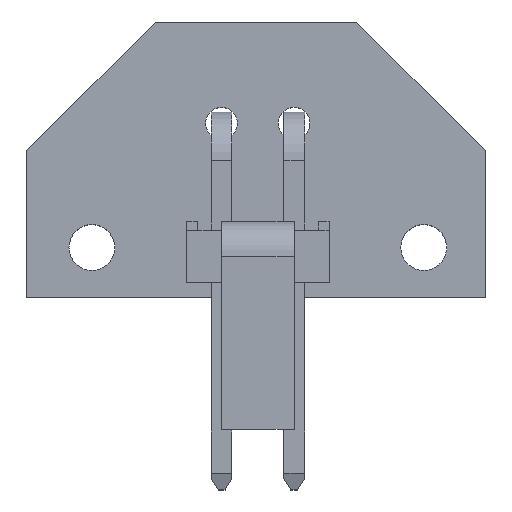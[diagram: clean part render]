
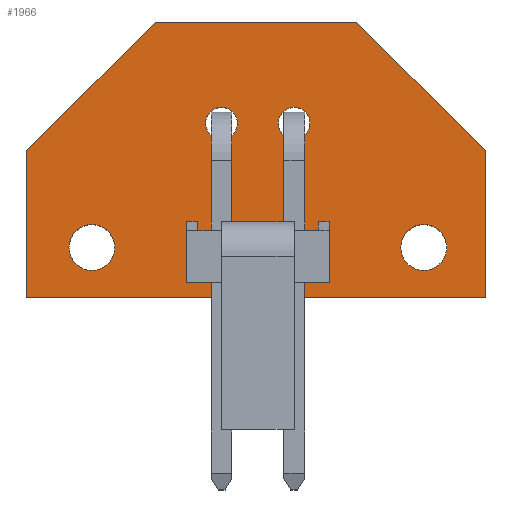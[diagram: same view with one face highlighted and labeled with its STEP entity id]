
A CAD part, top view. The second image highlights one B-rep face of the part: STEP entity #1966.
In plain terms, the highlighted planar face has unit normal (0, 0, 1).
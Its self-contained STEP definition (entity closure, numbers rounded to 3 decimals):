
#33=FACE_BOUND('',#250,.T.);
#34=FACE_BOUND('',#251,.T.);
#35=FACE_BOUND('',#252,.T.);
#36=FACE_BOUND('',#253,.T.);
#52=PLANE('',#2116);
#146=FACE_OUTER_BOUND('',#249,.T.);
#249=EDGE_LOOP('',(#1409,#1410,#1411,#1412,#1413,#1414));
#250=EDGE_LOOP('',(#1415));
#251=EDGE_LOOP('',(#1416));
#252=EDGE_LOOP('',(#1417));
#253=EDGE_LOOP('',(#1418));
#361=LINE('',#2801,#619);
#364=LINE('',#2807,#622);
#367=LINE('',#2813,#625);
#370=LINE('',#2819,#628);
#373=LINE('',#2825,#631);
#376=LINE('',#2829,#634);
#619=VECTOR('',#2271,10.);
#622=VECTOR('',#2276,10.);
#625=VECTOR('',#2281,10.);
#628=VECTOR('',#2286,10.);
#631=VECTOR('',#2291,10.);
#634=VECTOR('',#2296,10.);
#872=CIRCLE('',#2100,1.25);
#874=CIRCLE('',#2103,0.865);
#876=CIRCLE('',#2106,0.865);
#878=CIRCLE('',#2109,1.25);
#898=VERTEX_POINT('',#2773);
#900=VERTEX_POINT('',#2779);
#902=VERTEX_POINT('',#2785);
#904=VERTEX_POINT('',#2791);
#907=VERTEX_POINT('',#2798);
#908=VERTEX_POINT('',#2800);
#910=VERTEX_POINT('',#2806);
#912=VERTEX_POINT('',#2812);
#914=VERTEX_POINT('',#2818);
#916=VERTEX_POINT('',#2824);
#1087=EDGE_CURVE('',#898,#898,#872,.T.);
#1090=EDGE_CURVE('',#900,#900,#874,.T.);
#1093=EDGE_CURVE('',#902,#902,#876,.T.);
#1096=EDGE_CURVE('',#904,#904,#878,.T.);
#1099=EDGE_CURVE('',#908,#907,#361,.T.);
#1102=EDGE_CURVE('',#910,#908,#364,.T.);
#1105=EDGE_CURVE('',#912,#910,#367,.T.);
#1108=EDGE_CURVE('',#914,#912,#370,.T.);
#1111=EDGE_CURVE('',#916,#914,#373,.T.);
#1114=EDGE_CURVE('',#907,#916,#376,.T.);
#1409=ORIENTED_EDGE('',*,*,#1114,.T.);
#1410=ORIENTED_EDGE('',*,*,#1111,.T.);
#1411=ORIENTED_EDGE('',*,*,#1108,.T.);
#1412=ORIENTED_EDGE('',*,*,#1105,.T.);
#1413=ORIENTED_EDGE('',*,*,#1102,.T.);
#1414=ORIENTED_EDGE('',*,*,#1099,.T.);
#1415=ORIENTED_EDGE('',*,*,#1087,.T.);
#1416=ORIENTED_EDGE('',*,*,#1090,.T.);
#1417=ORIENTED_EDGE('',*,*,#1093,.T.);
#1418=ORIENTED_EDGE('',*,*,#1096,.T.);
#1966=ADVANCED_FACE('',(#146,#33,#34,#35,#36),#52,.T.);
#2100=AXIS2_PLACEMENT_3D('',#2775,#2244,#2245);
#2103=AXIS2_PLACEMENT_3D('',#2781,#2251,#2252);
#2106=AXIS2_PLACEMENT_3D('',#2787,#2258,#2259);
#2109=AXIS2_PLACEMENT_3D('',#2793,#2265,#2266);
#2116=AXIS2_PLACEMENT_3D('',#2830,#2297,#2298);
#2244=DIRECTION('center_axis',(0.,0.,-1.));
#2245=DIRECTION('ref_axis',(1.,0.,0.));
#2251=DIRECTION('center_axis',(0.,0.,-1.));
#2252=DIRECTION('ref_axis',(1.,0.,0.));
#2258=DIRECTION('center_axis',(0.,0.,-1.));
#2259=DIRECTION('ref_axis',(1.,0.,0.));
#2265=DIRECTION('center_axis',(0.,0.,-1.));
#2266=DIRECTION('ref_axis',(1.,0.,0.));
#2271=DIRECTION('',(1.,0.,0.));
#2276=DIRECTION('',(0.,-1.,0.));
#2281=DIRECTION('',(-0.707,-0.707,0.));
#2286=DIRECTION('',(-1.,0.,0.));
#2291=DIRECTION('',(-0.707,0.707,0.));
#2296=DIRECTION('',(0.,1.,0.));
#2297=DIRECTION('center_axis',(0.,0.,1.));
#2298=DIRECTION('ref_axis',(1.,0.,0.));
#2773=CARTESIAN_POINT('',(21.4,13.7,1.57));
#2775=CARTESIAN_POINT('Origin',(22.65,13.7,1.57));
#2779=CARTESIAN_POINT('',(10.755,20.48,1.57));
#2781=CARTESIAN_POINT('Origin',(11.62,20.48,1.57));
#2785=CARTESIAN_POINT('',(14.715,20.48,1.57));
#2787=CARTESIAN_POINT('Origin',(15.58,20.48,1.57));
#2791=CARTESIAN_POINT('',(3.3,13.7,1.57));
#2793=CARTESIAN_POINT('Origin',(4.55,13.7,1.57));
#2798=CARTESIAN_POINT('',(26.,11.,1.57));
#2800=CARTESIAN_POINT('',(1.,11.,1.57));
#2801=CARTESIAN_POINT('',(1.,11.,1.57));
#2806=CARTESIAN_POINT('',(1.,19.,1.57));
#2807=CARTESIAN_POINT('',(1.,19.,1.57));
#2812=CARTESIAN_POINT('',(8.,26.,1.57));
#2813=CARTESIAN_POINT('',(8.,26.,1.57));
#2818=CARTESIAN_POINT('',(19.,26.,1.57));
#2819=CARTESIAN_POINT('',(19.,26.,1.57));
#2824=CARTESIAN_POINT('',(26.,19.,1.57));
#2825=CARTESIAN_POINT('',(26.,19.,1.57));
#2829=CARTESIAN_POINT('',(26.,11.,1.57));
#2830=CARTESIAN_POINT('Origin',(13.5,18.5,1.57));
